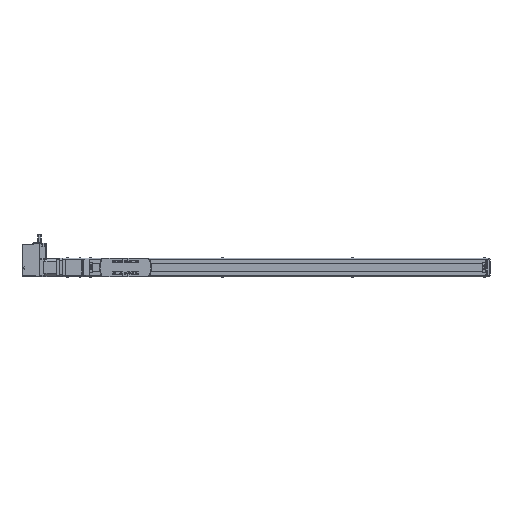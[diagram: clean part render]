
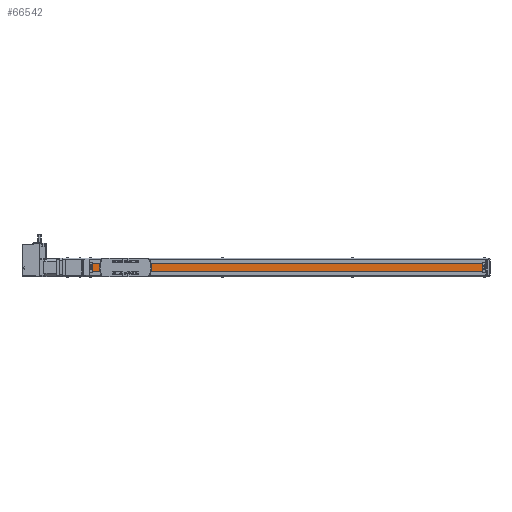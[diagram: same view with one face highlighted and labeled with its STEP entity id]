
A CAD part, front view. The second image highlights one B-rep face of the part: STEP entity #66542.
In plain terms, the highlighted planar face has unit normal (0, -1, 0) as drawn and (0, 1, 0) by its records, which use the part's own axes.
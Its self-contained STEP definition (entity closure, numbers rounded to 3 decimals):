
#66250 = PLANE('',#66251);
#66251 = AXIS2_PLACEMENT_3D('',#66252,#66253,#66254);
#66252 = CARTESIAN_POINT('',(-16.5,13.8,-10.));
#66253 = DIRECTION('',(1.,0.,0.));
#66254 = DIRECTION('',(0.,0.,-1.));
#66306 = PLANE('',#66307);
#66307 = AXIS2_PLACEMENT_3D('',#66308,#66309,#66310);
#66308 = CARTESIAN_POINT('',(-919.5,13.8,10.));
#66309 = DIRECTION('',(-1.,0.,0.));
#66310 = DIRECTION('',(0.,0.,1.));
#66542 = ADVANCED_FACE('',(#66543),#66557,.T.);
#66543 = FACE_BOUND('',#66544,.T.);
#66544 = EDGE_LOOP('',(#66545,#66580,#66603,#66631));
#66545 = ORIENTED_EDGE('',*,*,#66546,.T.);
#66546 = EDGE_CURVE('',#66547,#66549,#66551,.T.);
#66547 = VERTEX_POINT('',#66548);
#66548 = CARTESIAN_POINT('',(-919.5,12.3,9.2));
#66549 = VERTEX_POINT('',#66550);
#66550 = CARTESIAN_POINT('',(-16.5,12.3,9.2));
#66551 = SURFACE_CURVE('',#66552,(#66556,#66568),.PCURVE_S1.);
#66552 = LINE('',#66553,#66554);
#66553 = CARTESIAN_POINT('',(-926.5,12.3,9.2));
#66554 = VECTOR('',#66555,1.);
#66555 = DIRECTION('',(1.,0.,0.));
#66556 = PCURVE('',#66557,#66562);
#66557 = PLANE('',#66558);
#66558 = AXIS2_PLACEMENT_3D('',#66559,#66560,#66561);
#66559 = CARTESIAN_POINT('',(-926.5,12.3,-18.034));
#66560 = DIRECTION('',(0.,1.,0.));
#66561 = DIRECTION('',(0.,-0.,1.));
#66562 = DEFINITIONAL_REPRESENTATION('',(#66563),#66567);
#66563 = LINE('',#66564,#66565);
#66564 = CARTESIAN_POINT('',(27.234,0.));
#66565 = VECTOR('',#66566,1.);
#66566 = DIRECTION('',(0.,1.));
#66567 = ( GEOMETRIC_REPRESENTATION_CONTEXT(2) 
PARAMETRIC_REPRESENTATION_CONTEXT() REPRESENTATION_CONTEXT('2D SPACE',''
  ) );
#66568 = PCURVE('',#66569,#66574);
#66569 = PLANE('',#66570);
#66570 = AXIS2_PLACEMENT_3D('',#66571,#66572,#66573);
#66571 = CARTESIAN_POINT('',(-926.5,11.1,9.2));
#66572 = DIRECTION('',(0.,0.,-1.));
#66573 = DIRECTION('',(0.,1.,0.));
#66574 = DEFINITIONAL_REPRESENTATION('',(#66575),#66579);
#66575 = LINE('',#66576,#66577);
#66576 = CARTESIAN_POINT('',(1.2,0.));
#66577 = VECTOR('',#66578,1.);
#66578 = DIRECTION('',(0.,1.));
#66579 = ( GEOMETRIC_REPRESENTATION_CONTEXT(2) 
PARAMETRIC_REPRESENTATION_CONTEXT() REPRESENTATION_CONTEXT('2D SPACE',''
  ) );
#66580 = ORIENTED_EDGE('',*,*,#66581,.T.);
#66581 = EDGE_CURVE('',#66549,#66582,#66584,.T.);
#66582 = VERTEX_POINT('',#66583);
#66583 = CARTESIAN_POINT('',(-16.5,12.3,-9.2));
#66584 = SURFACE_CURVE('',#66585,(#66589,#66596),.PCURVE_S1.);
#66585 = LINE('',#66586,#66587);
#66586 = CARTESIAN_POINT('',(-16.5,12.3,-18.034));
#66587 = VECTOR('',#66588,1.);
#66588 = DIRECTION('',(0.,0.,-1.));
#66589 = PCURVE('',#66557,#66590);
#66590 = DEFINITIONAL_REPRESENTATION('',(#66591),#66595);
#66591 = LINE('',#66592,#66593);
#66592 = CARTESIAN_POINT('',(0.,910.));
#66593 = VECTOR('',#66594,1.);
#66594 = DIRECTION('',(-1.,0.));
#66595 = ( GEOMETRIC_REPRESENTATION_CONTEXT(2) 
PARAMETRIC_REPRESENTATION_CONTEXT() REPRESENTATION_CONTEXT('2D SPACE',''
  ) );
#66596 = PCURVE('',#66250,#66597);
#66597 = DEFINITIONAL_REPRESENTATION('',(#66598),#66602);
#66598 = LINE('',#66599,#66600);
#66599 = CARTESIAN_POINT('',(8.034,-1.5));
#66600 = VECTOR('',#66601,1.);
#66601 = DIRECTION('',(1.,0.));
#66602 = ( GEOMETRIC_REPRESENTATION_CONTEXT(2) 
PARAMETRIC_REPRESENTATION_CONTEXT() REPRESENTATION_CONTEXT('2D SPACE',''
  ) );
#66603 = ORIENTED_EDGE('',*,*,#66604,.F.);
#66604 = EDGE_CURVE('',#66605,#66582,#66607,.T.);
#66605 = VERTEX_POINT('',#66606);
#66606 = CARTESIAN_POINT('',(-919.5,12.3,-9.2));
#66607 = SURFACE_CURVE('',#66608,(#66612,#66619),.PCURVE_S1.);
#66608 = LINE('',#66609,#66610);
#66609 = CARTESIAN_POINT('',(-926.5,12.3,-9.2));
#66610 = VECTOR('',#66611,1.);
#66611 = DIRECTION('',(1.,0.,0.));
#66612 = PCURVE('',#66557,#66613);
#66613 = DEFINITIONAL_REPRESENTATION('',(#66614),#66618);
#66614 = LINE('',#66615,#66616);
#66615 = CARTESIAN_POINT('',(8.834,0.));
#66616 = VECTOR('',#66617,1.);
#66617 = DIRECTION('',(0.,1.));
#66618 = ( GEOMETRIC_REPRESENTATION_CONTEXT(2) 
PARAMETRIC_REPRESENTATION_CONTEXT() REPRESENTATION_CONTEXT('2D SPACE',''
  ) );
#66619 = PCURVE('',#66620,#66625);
#66620 = PLANE('',#66621);
#66621 = AXIS2_PLACEMENT_3D('',#66622,#66623,#66624);
#66622 = CARTESIAN_POINT('',(-926.5,12.3,-9.2));
#66623 = DIRECTION('',(0.,0.,1.));
#66624 = DIRECTION('',(0.,-1.,0.));
#66625 = DEFINITIONAL_REPRESENTATION('',(#66626),#66630);
#66626 = LINE('',#66627,#66628);
#66627 = CARTESIAN_POINT('',(0.,0.));
#66628 = VECTOR('',#66629,1.);
#66629 = DIRECTION('',(0.,1.));
#66630 = ( GEOMETRIC_REPRESENTATION_CONTEXT(2) 
PARAMETRIC_REPRESENTATION_CONTEXT() REPRESENTATION_CONTEXT('2D SPACE',''
  ) );
#66631 = ORIENTED_EDGE('',*,*,#66632,.T.);
#66632 = EDGE_CURVE('',#66605,#66547,#66633,.T.);
#66633 = SURFACE_CURVE('',#66634,(#66638,#66645),.PCURVE_S1.);
#66634 = LINE('',#66635,#66636);
#66635 = CARTESIAN_POINT('',(-919.5,12.3,-18.034));
#66636 = VECTOR('',#66637,1.);
#66637 = DIRECTION('',(0.,0.,1.));
#66638 = PCURVE('',#66557,#66639);
#66639 = DEFINITIONAL_REPRESENTATION('',(#66640),#66644);
#66640 = LINE('',#66641,#66642);
#66641 = CARTESIAN_POINT('',(0.,7.));
#66642 = VECTOR('',#66643,1.);
#66643 = DIRECTION('',(1.,0.));
#66644 = ( GEOMETRIC_REPRESENTATION_CONTEXT(2) 
PARAMETRIC_REPRESENTATION_CONTEXT() REPRESENTATION_CONTEXT('2D SPACE',''
  ) );
#66645 = PCURVE('',#66306,#66646);
#66646 = DEFINITIONAL_REPRESENTATION('',(#66647),#66651);
#66647 = LINE('',#66648,#66649);
#66648 = CARTESIAN_POINT('',(-28.034,-1.5));
#66649 = VECTOR('',#66650,1.);
#66650 = DIRECTION('',(1.,0.));
#66651 = ( GEOMETRIC_REPRESENTATION_CONTEXT(2) 
PARAMETRIC_REPRESENTATION_CONTEXT() REPRESENTATION_CONTEXT('2D SPACE',''
  ) );
